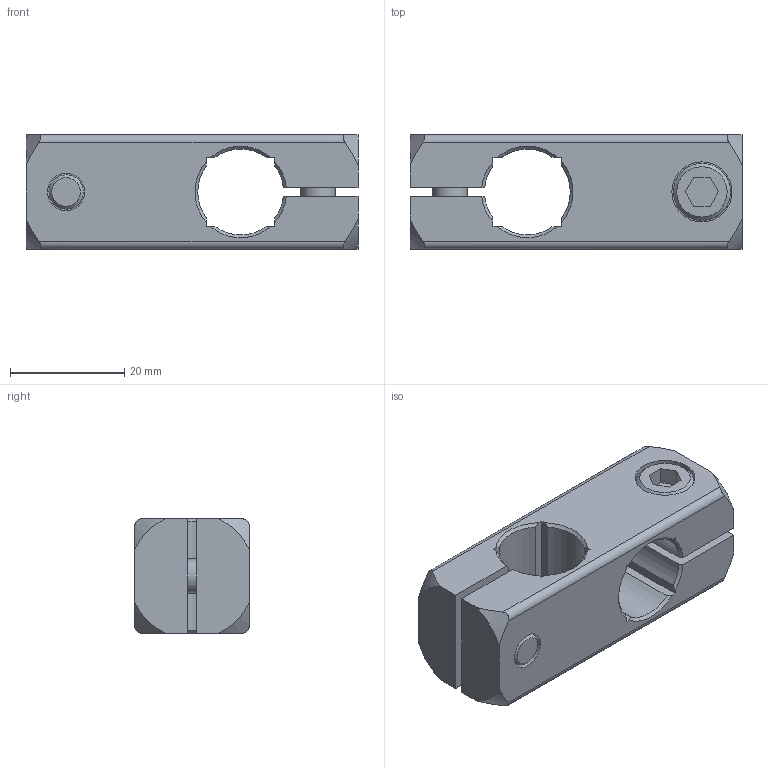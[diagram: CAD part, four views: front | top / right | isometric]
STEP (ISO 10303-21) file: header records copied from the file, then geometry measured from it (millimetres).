
FILE_DESCRIPTION( ( 'STEP AP203' ), '1' );
FILE_NAME( 'C:/Temp/Ganter_Step_05_03_2020/data/3_7/gn_474/Two-way clamp mounting GN 474-B15-B15-ELS.stp', '2020-03-12T14:44:50', ( 'License CC BY-ND 4.0' ), ( 'CADENAS' ), ' ', 'PARTsolutions', ' ' );
FILE_SCHEMA( ( 'CONFIG_CONTROL_DESIGN' ) );
Length unit declared in the file: millimetre
Products named in the file (1): _Two-way clamp mounting GN 474-B15-B15-ELS
Bounding box: 58 x 20 x 20 mm (x, y, z)
Volume: 14721.7 mm3; surface area: 9079.5 mm2
Topology: 1 solids, 1 shells, 106 faces, 280 edges, 186 vertices
Faces by surface type: plane 50, cone 32, cylinder 24
Full cylindrical faces by diameter (mm): 6 x2, 6.5 x4, 10 x2, 10.5 x2
Entity records: 3404 total; most frequent: CARTESIAN_POINT 843, ORIENTED_EDGE 528, DIRECTION 486, EDGE_CURVE 264, VERTEX_POINT 184, AXIS2_PLACEMENT_3D 179, EDGE_LOOP 134, LINE 128
